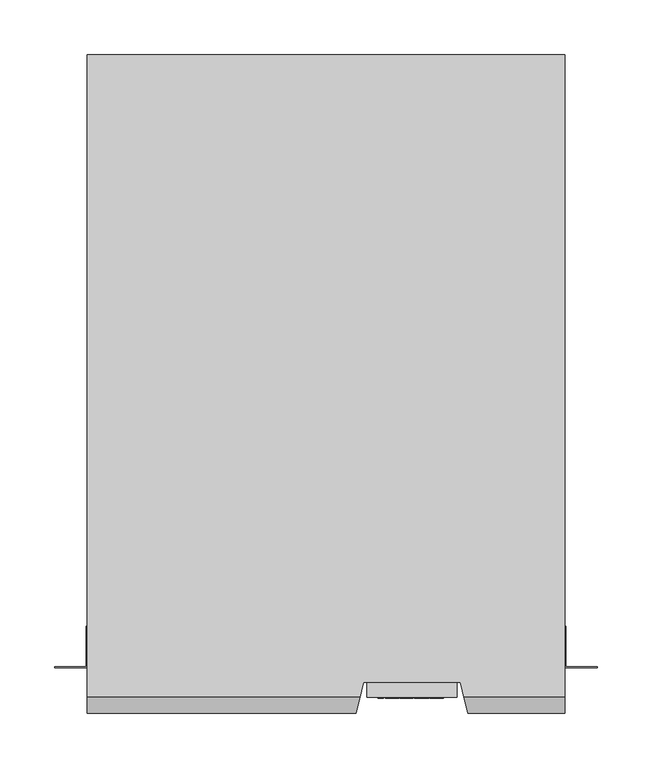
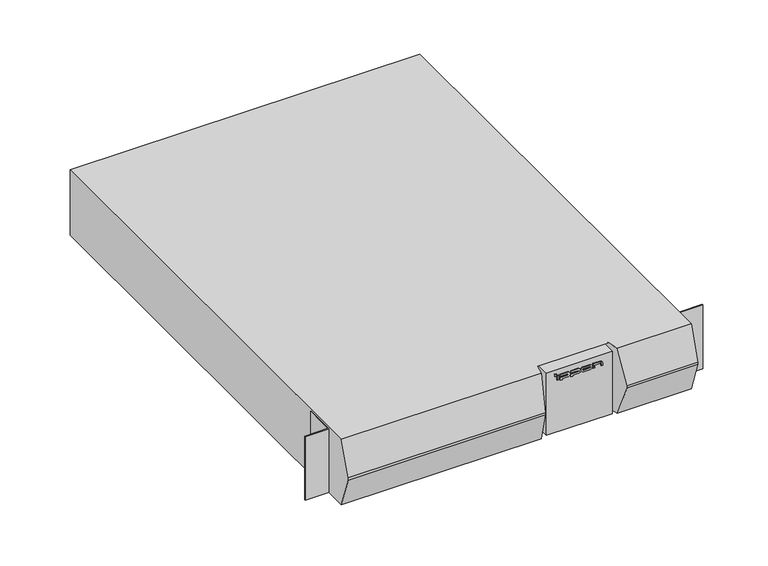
"""IFC4 building model written with IfcOpenShell, lengths in millimetres: proxy geometry, IPPON_ИБП_Innova RT_1000_1500_2000_3000ВА : INNOVA RT 3000 ВА."""

from ifc_helpers import new_model, si_unit, point, frame, frame_2d, origin, place, context, project, spatial, polyline, circle_curve, trimmed, segment, composite_curve, outline, extrude, faceted_brep, source, transform, mapped, element, save


def electrical_equipment_a6e1776d(model_context):
    return source(origin(), model_context, "Body", "SolidModel", [
        extrude(outline(polyline([(49.8281867, 14.0), (47.8281867, 14.0), (47.8281867, 15.0), (49.8281867, 15.0), (49.8281867, 14.0)])), frame((0.0, 0.0, 78.9695835), z_axis=(0.0, 0.0, 1.0), x_axis=(1.0, 0.0, 0.0)), (0.0, 0.0, 1.0), 2.3),
        extrude(outline(polyline([(97.6035474, 14.0), (95.6035474, 14.0), (95.6035474, 15.0), (97.6035474, 15.0), (97.6035474, 14.0)])), frame((0.0, 0.0, 72.9695835), z_axis=(0.0, 0.0, 1.0), x_axis=(1.0, 0.0, 0.0)), (0.0, 0.0, 1.0), 2.2268231),
        extrude(outline(polyline([(52.561435, 14.0), (50.5166676, 14.0), (50.5166676, 15.0), (52.561435, 15.0), (52.561435, 14.0)])), frame((0.0, 0.0, 72.9695835), z_axis=(0.0, 0.0, 1.0), x_axis=(1.0, 0.0, 0.0)), (0.0, 0.0, 1.0), 6.0),
        extrude(outline(composite_curve([segment(polyline([(76.7071435, 54.7758891), (76.7071435, 64.0076464)]), True, "CONTINUOUS"), segment(trimmed(circle_curve(frame_2d((75.8506642, 64.0076464)), 0.8564793), [point((76.7071435, 64.0076464))], [point((74.9941849, 64.0076464))], True, "CARTESIAN"), True, "CONTINUOUS"), segment(polyline([(74.9941849, 64.0076464), (74.9941849, 54.7758891), (71.5036803, 54.7758891), (71.5036803, 56.7758891), (72.9695835, 56.7758891), (72.9695835, 63.8513964)]), True, "CONTINUOUS"), segment(trimmed(circle_curve(frame_2d((75.9695835, 63.8513964)), 3.0), [point((72.9695835, 63.8513964))], [point((78.9695835, 63.8513964))], False, "CARTESIAN"), True, "CONTINUOUS"), segment(polyline([(78.9695835, 63.8513964), (78.9695835, 54.7758891), (76.7071435, 54.7758891)]), True, "CONTINUOUS")], self_intersect=False)), frame((0.0, 14.0, 0.0), z_axis=(0.0, 1.0, 0.0), x_axis=(0.0, 0.0, 1.0)), (0.0, 0.0, 1.0), 1.0),
        extrude(outline(composite_curve([segment(polyline([(76.7071435, 67.9828909), (76.7071435, 77.2146482)]), True, "CONTINUOUS"), segment(trimmed(circle_curve(frame_2d((75.8506642, 77.2146482)), 0.8564793), [point((76.7071435, 77.2146482))], [point((74.9941849, 77.2146482))], True, "CARTESIAN"), True, "CONTINUOUS"), segment(polyline([(74.9941849, 77.2146482), (74.9941849, 67.9828909), (71.5036803, 67.9828909), (71.5036803, 69.9828909), (72.9695835, 69.9828909), (72.9695835, 77.0583982)]), True, "CONTINUOUS"), segment(trimmed(circle_curve(frame_2d((75.9695835, 77.0583982)), 3.0), [point((72.9695835, 77.0583982))], [point((78.9695835, 77.0583982))], False, "CARTESIAN"), True, "CONTINUOUS"), segment(polyline([(78.9695835, 77.0583982), (78.9695835, 67.9828909), (76.7071435, 67.9828909)]), True, "CONTINUOUS")], self_intersect=False)), frame((0.0, 14.0, 0.0), z_axis=(0.0, 1.0, 0.0), x_axis=(0.0, 0.0, 1.0)), (0.0, 0.0, 1.0), 1.0),
        extrude(outline(composite_curve([segment(trimmed(circle_curve(frame_2d((75.9695835, 91.558657)), 3.0), [point((72.9695835, 91.558657))], [point((78.9695835, 91.558657))], False, "CARTESIAN"), True, "CONTINUOUS"), segment(polyline([(78.9695835, 91.558657), (78.9695835, 83.958657)]), True, "CONTINUOUS"), segment(trimmed(circle_curve(frame_2d((75.9695835, 83.958657)), 3.0), [point((78.9695835, 83.958657))], [point((72.9695835, 83.958657))], False, "CARTESIAN"), True, "CONTINUOUS"), segment(polyline([(72.9695835, 83.958657), (72.9695835, 91.558657)]), True, "CONTINUOUS")], self_intersect=False), holes=[composite_curve([segment(polyline([(74.9941849, 91.714907), (74.9941849, 83.802407)]), True, "CONTINUOUS"), segment(trimmed(circle_curve(frame_2d((75.8506642, 83.802407)), 0.8564793), [point((74.9941849, 83.802407))], [point((76.7071435, 83.802407))], True, "CARTESIAN"), True, "CONTINUOUS"), segment(polyline([(76.7071435, 83.802407), (76.7071435, 91.714907)]), True, "CONTINUOUS"), segment(trimmed(circle_curve(frame_2d((75.8506642, 91.714907)), 0.8564793), [point((76.7071435, 91.714907))], [point((74.9941849, 91.714907))], True, "CARTESIAN"), True, "CONTINUOUS")], self_intersect=False)]), frame((0.0, 14.0, 0.0), z_axis=(0.0, 1.0, 0.0), x_axis=(0.0, 0.0, 1.0)), (0.0, 0.0, 1.0), 1.0),
        extrude(outline(composite_curve([segment(polyline([(76.7071435, 95.6035474), (76.7071435, 104.8353046)]), True, "CONTINUOUS"), segment(trimmed(circle_curve(frame_2d((75.8506642, 104.8353046)), 0.8564793), [point((76.7071435, 104.8353046))], [point((75.8506642, 105.6917839))], True, "CARTESIAN"), True, "CONTINUOUS"), segment(polyline([(75.8506642, 105.6917839), (72.9695835, 105.6917839), (72.9695835, 107.6317921), (76.5, 107.6317921)]), True, "CONTINUOUS"), segment(trimmed(circle_curve(frame_2d((75.9695835, 104.6790546)), 3.0), [point((76.5, 107.6317921))], [point((78.9695835, 104.6790546))], False, "CARTESIAN"), True, "CONTINUOUS"), segment(polyline([(78.9695835, 104.6790546), (78.9695835, 95.6035474), (76.7071435, 95.6035474)]), True, "CONTINUOUS")], self_intersect=False)), frame((0.0, 14.0, 0.0), z_axis=(0.0, 1.0, 0.0), x_axis=(0.0, 0.0, 1.0)), (0.0, 0.0, 1.0), 1.0),
        extrude(outline(polyline([(120.25, 15.0), (37.75, 15.0), (37.75, 43.0), (120.25, 43.0), (120.25, 15.0)])), frame((0.0, 0.0, 4.0), z_axis=(0.0, 0.0, 1.0), x_axis=(1.0, 0.0, 0.0)), (0.0, 0.0, 1.0), 82.5),
        faceted_brep([(219.0, 0.0, 43.75), (219.0, 0.0, 46.75), (130.25, 0.0, 46.75), (130.25, 0.0, 43.75), (-219.0, 0.0, 46.75), (-219.0, 0.0, 43.75), (27.75, 0.0, 43.75), (27.75, 0.0, 46.75), (219.0, 15.0, 2.0), (219.0, 604.0, 2.0), (219.0, 604.0, 88.5), (219.0, 15.0, 88.5), (126.7616279, 15.0, 88.5), (-219.0, 15.0, 88.5), (31.2383721, 15.0, 88.5), (-219.0, 604.0, 88.5), (-219.0, 604.0, 2.0), (-219.0, 15.0, 2.0), (126.7616279, 15.0, 2.0), (31.2383721, 15.0, 2.0), (120.25, 43.0, 86.5), (37.75, 43.0, 86.5), (37.75, 43.0, 4.0), (120.25, 43.0, 4.0), (122.25, 34.4, 2.0), (123.5833333, 28.6666667, 88.5), (35.75, 34.4, 2.0), (34.4166667, 28.6666667, 88.5)], [[[0, 1, 2, 3]], [[4, 5, 6, 7]], [[1, 0, 8, 9, 10, 11]], [[1, 11, 12, 2]], [[13, 4, 7, 14]], [[5, 4, 13, 15, 16, 17]], [[8, 0, 3, 18]], [[5, 17, 19, 6]], [[20, 21, 22, 23]], [[20, 23, 24, 18, 3, 2, 12, 25]], [[23, 22, 26, 24]], [[22, 21, 27, 14, 7, 6, 19, 26]], [[21, 20, 25, 27]], [[10, 9, 16, 15]], [[10, 15, 13, 14, 27, 25, 12, 11]], [[16, 9, 8, 18, 24, 26, 19, 17]]]),
        extrude(outline(polyline([(219.0, 42.0), (219.0, 80.0), (220.0, 80.0), (220.0, 43.0), (249.0, 43.0), (249.0, 42.0), (219.0, 42.0)])), frame((0.0, 0.0, 2.0), z_axis=(0.0, 0.0, 1.0), x_axis=(1.0, 0.0, 0.0)), (0.0, 0.0, 1.0), 84.5),
        extrude(outline(polyline([(-219.0, 42.0), (-249.0, 42.0), (-249.0, 43.0), (-220.0, 43.0), (-220.0, 80.0), (-219.0, 80.0), (-219.0, 42.0)])), frame((0.0, 0.0, 2.0), z_axis=(0.0, 0.0, 1.0), x_axis=(1.0, 0.0, 0.0)), (0.0, 0.0, 1.0), 84.5),
    ])


if __name__ == "__main__":
    model = new_model("IFC4")
    model_context = context("Model", 3, world=origin())
    ifc_project = project(units=[si_unit("LENGTHUNIT", "METRE", prefix="MILLI")], contexts=[model_context])
    site = spatial("IfcSite", under=ifc_project)
    building = spatial("IfcBuilding", under=site)
    placement = place(None, origin())
    electrical_equipment_shape = electrical_equipment_a6e1776d(model_context)
    element("IfcBuildingElementProxy", 1, Name="IPPON_ИБП_Innova RT_1000_1500_2000_3000ВА : INNOVA RT 3000 ВА", ObjectType="IPPON_ИБП_Innova RT_1000_1500_2000_3000ВА : INNOVA RT 3000 ВА", at=placement, inside=building, context=model_context, shape_type="MappedRepresentation", body=[
        mapped(electrical_equipment_shape, transform((0.0, 0.0, 0.0), x_axis=(1.0, 0.0, 0.0), y_axis=(0.0, 1.0, 0.0), z_axis=(0.0, 0.0, 1.0))),
    ])
    save(model, "model.ifc")
